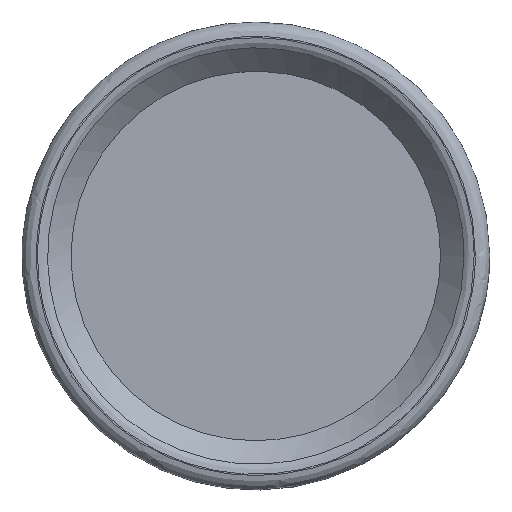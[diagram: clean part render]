
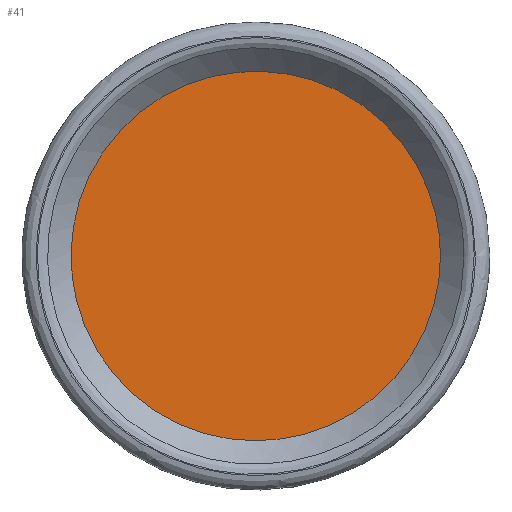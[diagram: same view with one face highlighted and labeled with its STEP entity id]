
A CAD part, top view. The second image highlights one B-rep face of the part: STEP entity #41.
In plain terms, the highlighted planar face has unit normal (0, 0, 1).
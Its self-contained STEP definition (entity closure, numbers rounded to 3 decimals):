
#41=ADVANCED_FACE('',(#60),#242,.T.);
#60=FACE_OUTER_BOUND('',#82,.T.);
#82=EDGE_LOOP('',(#132));
#132=ORIENTED_EDGE('',*,*,#172,.F.);
#172=EDGE_CURVE('',#226,#226,#205,.T.);
#205=(
BOUNDED_CURVE()
B_SPLINE_CURVE(2,(#620,#621,#622,#623,#624,#625,#626,#627,#628),
 .UNSPECIFIED.,.T.,.F.)
B_SPLINE_CURVE_WITH_KNOTS((3,2,2,2,3),(-161.164,-120.873,
-80.582,-40.291,0.),.UNSPECIFIED.)
CURVE()
GEOMETRIC_REPRESENTATION_ITEM()
RATIONAL_B_SPLINE_CURVE((1.,0.707,1.,0.707,1.,0.707,
1.,0.707,1.))
REPRESENTATION_ITEM('')
);
#226=VERTEX_POINT('',#487);
#242=PLANE('',#279);
#279=AXIS2_PLACEMENT_3D('',#399,#294,$);
#294=DIRECTION('',(0.,0.,1.));
#399=CARTESIAN_POINT('',(-26.163,26.163,35.4));
#487=CARTESIAN_POINT('',(25.65,0.,35.4));
#620=CARTESIAN_POINT('',(25.65,0.,35.4));
#621=CARTESIAN_POINT('',(25.65,-25.65,35.4));
#622=CARTESIAN_POINT('',(0.,-25.65,35.4));
#623=CARTESIAN_POINT('',(-25.65,-25.65,35.4));
#624=CARTESIAN_POINT('',(-25.65,0.,35.4));
#625=CARTESIAN_POINT('',(-25.65,25.65,35.4));
#626=CARTESIAN_POINT('',(0.,25.65,35.4));
#627=CARTESIAN_POINT('',(25.65,25.65,35.4));
#628=CARTESIAN_POINT('',(25.65,0.,35.4));
